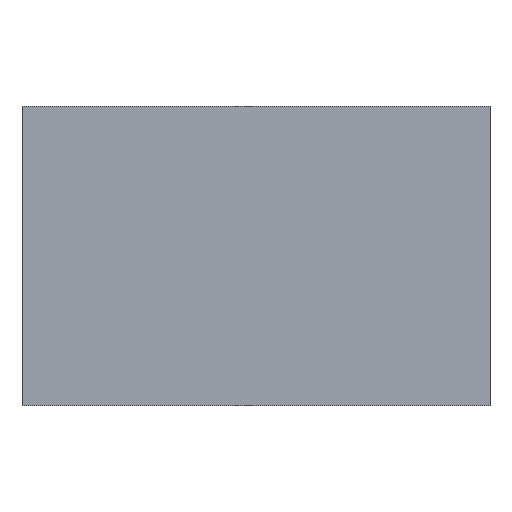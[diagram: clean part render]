
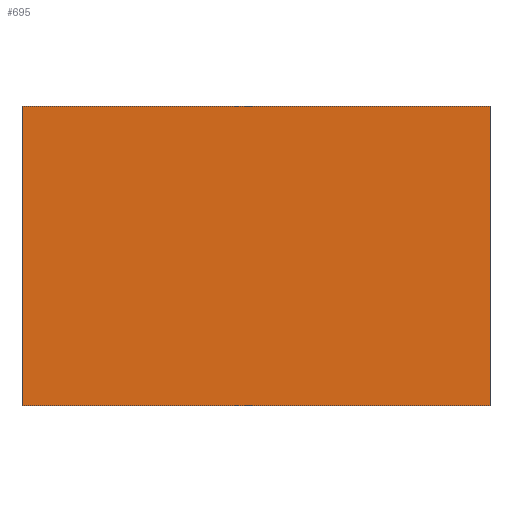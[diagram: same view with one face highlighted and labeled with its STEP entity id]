
A CAD part, front view. The second image highlights one B-rep face of the part: STEP entity #695.
In plain terms, the highlighted planar face has unit normal (0, -1, 0).
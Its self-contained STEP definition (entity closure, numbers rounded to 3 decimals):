
#20=LINE('',#1156,#40);
#25=LINE('',#1167,#45);
#27=LINE('',#1170,#47);
#29=LINE('',#1173,#49);
#40=VECTOR('',#904,1000.);
#45=VECTOR('',#911,1000.);
#47=VECTOR('',#915,1000.);
#49=VECTOR('',#919,1000.);
#107=ORIENTED_EDGE('',*,*,#246,.F.);
#108=ORIENTED_EDGE('',*,*,#244,.F.);
#109=ORIENTED_EDGE('',*,*,#248,.F.);
#110=ORIENTED_EDGE('',*,*,#239,.F.);
#239=EDGE_CURVE('',#313,#314,#20,.T.);
#244=EDGE_CURVE('',#318,#316,#25,.T.);
#246=EDGE_CURVE('',#316,#313,#27,.T.);
#248=EDGE_CURVE('',#314,#318,#29,.T.);
#313=VERTEX_POINT('',#1155);
#314=VERTEX_POINT('',#1157);
#316=VERTEX_POINT('',#1162);
#318=VERTEX_POINT('',#1166);
#437=EDGE_LOOP('',(#107,#108,#109,#110));
#549=FACE_BOUND('',#437,.T.);
#659=PLANE('',#781);
#695=ADVANCED_FACE('',(#549),#659,.F.);
#781=AXIS2_PLACEMENT_3D('',#1174,#920,#921);
#904=DIRECTION('',(1.,0.,0.));
#911=DIRECTION('',(-1.,0.,0.));
#915=DIRECTION('',(0.,0.,1.));
#919=DIRECTION('',(0.,0.,-1.));
#920=DIRECTION('',(0.,1.,0.));
#921=DIRECTION('',(0.,0.,1.));
#1155=CARTESIAN_POINT('',(-15.875,0.,9.929));
#1156=CARTESIAN_POINT('',(-15.875,0.,9.929));
#1157=CARTESIAN_POINT('',(15.875,0.,9.929));
#1162=CARTESIAN_POINT('',(-15.875,0.,-10.391));
#1166=CARTESIAN_POINT('',(15.875,0.,-10.391));
#1167=CARTESIAN_POINT('',(-15.875,0.,-10.391));
#1170=CARTESIAN_POINT('',(-15.875,0.,-10.391));
#1173=CARTESIAN_POINT('',(15.875,0.,-10.391));
#1174=CARTESIAN_POINT('',(-15.875,0.,9.929));
